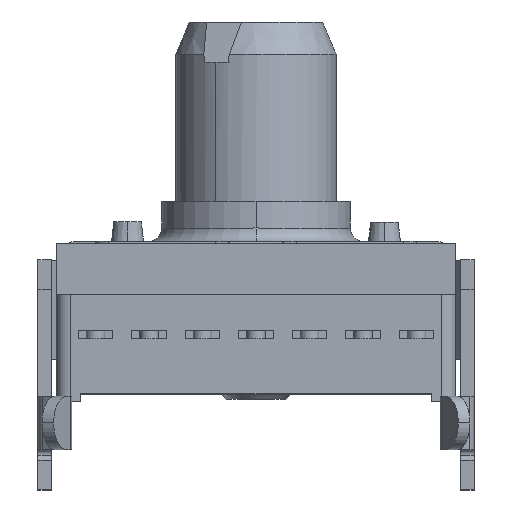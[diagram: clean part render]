
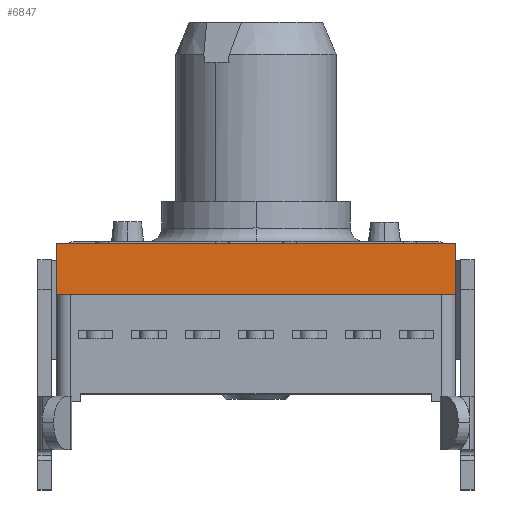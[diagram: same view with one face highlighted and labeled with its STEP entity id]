
A CAD part, top view. The second image highlights one B-rep face of the part: STEP entity #6847.
In plain terms, the highlighted planar face has unit normal (0, 0, 1).
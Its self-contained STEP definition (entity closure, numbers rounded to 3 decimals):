
#864 = ORIENTED_EDGE ( 'NONE', *, *, #5279, .F. ) ;
#1179 = VERTEX_POINT ( 'NONE', #1310 ) ;
#1310 = CARTESIAN_POINT ( 'NONE',  ( 7.45, 5.6, -1. ) ) ;
#2866 = DIRECTION ( 'NONE',  ( 1., 0., 0. ) ) ;
#3476 = EDGE_CURVE ( 'NONE', #10823, #9503, #13844, .T. ) ;
#3730 = PLANE ( 'NONE',  #3888 ) ;
#3883 = EDGE_CURVE ( 'NONE', #9503, #1179, #5330, .T. ) ;
#3888 = AXIS2_PLACEMENT_3D ( 'NONE', #8622, #4949, #6130 ) ;
#3897 = CARTESIAN_POINT ( 'NONE',  ( 7.45, 3.7, -1. ) ) ;
#4213 = DIRECTION ( 'NONE',  ( 0., 1., 0. ) ) ;
#4949 = DIRECTION ( 'NONE',  ( 0., 0., 1. ) ) ;
#5279 = EDGE_CURVE ( 'NONE', #10823, #13398, #14617, .T. ) ;
#5330 = LINE ( 'NONE', #3897, #11247 ) ;
#5621 = VECTOR ( 'NONE', #12223, 1000. ) ;
#6130 = DIRECTION ( 'NONE',  ( 1., 0., 0. ) ) ;
#6202 = VECTOR ( 'NONE', #9943, 1000. ) ;
#6287 = FACE_OUTER_BOUND ( 'NONE', #8883, .T. ) ;
#6417 = CARTESIAN_POINT ( 'NONE',  ( -7.45, 3.7, -1. ) ) ;
#6810 = ORIENTED_EDGE ( 'NONE', *, *, #3883, .T. ) ;
#6847 = ADVANCED_FACE ( 'NONE', ( #6287 ), #3730, .T. ) ;
#7676 = EDGE_CURVE ( 'NONE', #13398, #1179, #12430, .T. ) ;
#7924 = VECTOR ( 'NONE', #2866, 1000. ) ;
#8622 = CARTESIAN_POINT ( 'NONE',  ( 0., 3.7, -1. ) ) ;
#8813 = CARTESIAN_POINT ( 'NONE',  ( 0., 3.7, -1. ) ) ;
#8883 = EDGE_LOOP ( 'NONE', ( #6810, #15485, #864, #11762 ) ) ;
#9503 = VERTEX_POINT ( 'NONE', #15102 ) ;
#9943 = DIRECTION ( 'NONE',  ( 1., 0., 0. ) ) ;
#10823 = VERTEX_POINT ( 'NONE', #14120 ) ;
#11222 = CARTESIAN_POINT ( 'NONE',  ( 7.45, 5.6, -1. ) ) ;
#11247 = VECTOR ( 'NONE', #4213, 1000. ) ;
#11762 = ORIENTED_EDGE ( 'NONE', *, *, #3476, .T. ) ;
#12223 = DIRECTION ( 'NONE',  ( 0., 1., 0. ) ) ;
#12430 = LINE ( 'NONE', #11222, #6202 ) ;
#13398 = VERTEX_POINT ( 'NONE', #15653 ) ;
#13844 = LINE ( 'NONE', #8813, #7924 ) ;
#14120 = CARTESIAN_POINT ( 'NONE',  ( -7.45, 3.7, -1. ) ) ;
#14617 = LINE ( 'NONE', #6417, #5621 ) ;
#15102 = CARTESIAN_POINT ( 'NONE',  ( 7.45, 3.7, -1. ) ) ;
#15485 = ORIENTED_EDGE ( 'NONE', *, *, #7676, .F. ) ;
#15653 = CARTESIAN_POINT ( 'NONE',  ( -7.45, 5.6, -1. ) ) ;
